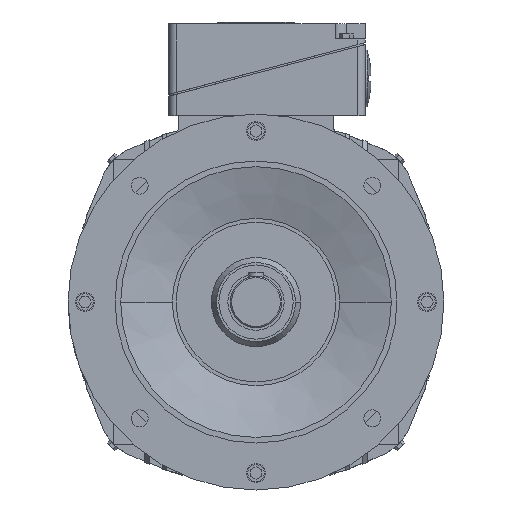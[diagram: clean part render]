
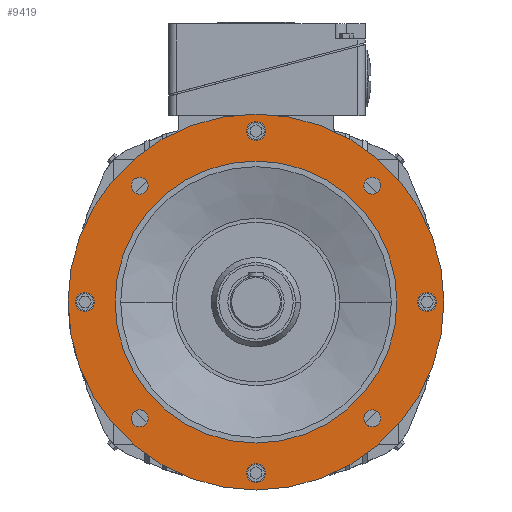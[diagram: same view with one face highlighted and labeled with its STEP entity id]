
A CAD part, front view. The second image highlights one B-rep face of the part: STEP entity #9419.
In plain terms, the highlighted planar face has unit normal (0, -1, 0).
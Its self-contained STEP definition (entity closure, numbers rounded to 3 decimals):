
#4403=EDGE_CURVE('',#9499,#4605,#12816,.T.);
#4451=EDGE_CURVE('',#10717,#5359,#12872,.T.);
#4605=VERTEX_POINT('',#13043);
#4783=EDGE_CURVE('',#4605,#9499,#13234,.T.);
#4973=VERTEX_POINT('',#13442);
#5017=VERTEX_POINT('',#13488);
#5359=VERTEX_POINT('',#13871);
#5581=VERTEX_POINT('',#14107);
#5633=VERTEX_POINT('',#14164);
#6057=EDGE_CURVE('',#5581,#7971,#14620,.T.);
#6237=VERTEX_POINT('',#14817);
#6575=EDGE_CURVE('',#6237,#11463,#15181,.T.);
#6701=VERTEX_POINT('',#15320);
#6723=VERTEX_POINT('',#15345);
#6781=EDGE_CURVE('',#5017,#6701,#15408,.T.);
#6913=EDGE_CURVE('',#8961,#4973,#15555,.T.);
#7023=EDGE_CURVE('',#5633,#7523,#15679,.T.);
#7095=EDGE_CURVE('',#6723,#12249,#15760,.T.);
#7499=EDGE_CURVE('',#10455,#9069,#16188,.T.);
#7523=VERTEX_POINT('',#16213);
#7789=EDGE_CURVE('',#7523,#5633,#16496,.T.);
#7971=VERTEX_POINT('',#16699);
#7977=EDGE_CURVE('',#7971,#5581,#16705,.T.);
#8027=EDGE_CURVE('',#9057,#9647,#16760,.T.);
#8373=EDGE_CURVE('',#5359,#10717,#17133,.T.);
#8401=EDGE_CURVE('',#11463,#6237,#17164,.T.);
#8961=VERTEX_POINT('',#17775);
#9057=VERTEX_POINT('',#17884);
#9069=VERTEX_POINT('',#17897);
#9419=ADVANCED_FACE('',(#18279,#18280,#18281,#18282,#18283,#18284,#18285,#18286,#18287,#18288),#18289,.T.);
#9499=VERTEX_POINT('',#18374);
#9515=EDGE_CURVE('',#9647,#9057,#18393,.T.);
#9647=VERTEX_POINT('',#18539);
#10033=EDGE_CURVE('',#9069,#10455,#18953,.T.);
#10455=VERTEX_POINT('',#19410);
#10717=VERTEX_POINT('',#19696);
#11037=EDGE_CURVE('',#4973,#8961,#20054,.T.);
#11463=VERTEX_POINT('',#20534);
#11583=EDGE_CURVE('',#6701,#5017,#20666,.T.);
#12233=EDGE_CURVE('',#12249,#6723,#21386,.T.);
#12249=VERTEX_POINT('',#21404);
#12816=CIRCLE('',#22155,9.0);
#12872=CIRCLE('',#22292,10.0);
#13043=CARTESIAN_POINT('',(130.108,-72.5,130.108));
#13234=CIRCLE('',#23018,9.0);
#13442=CARTESIAN_POINT('',(-150.0,-72.5,0.0));
#13488=CARTESIAN_POINT('',(-10.0,-72.5,-182.0));
#13871=CARTESIAN_POINT('',(10.0,-72.5,182.0));
#14107=CARTESIAN_POINT('',(200.0,-72.5,0.));
#14164=CARTESIAN_POINT('',(182.0,-72.5,10.0));
#14620=CIRCLE('',#25916,200.0);
#14817=CARTESIAN_POINT('',(130.108,-72.5,-130.108));
#15181=CIRCLE('',#27251,9.0);
#15320=CARTESIAN_POINT('',(10.0,-72.5,-182.0));
#15345=CARTESIAN_POINT('',(-130.108,-72.5,130.108));
#15408=CIRCLE('',#27627,10.0);
#15555=CIRCLE('',#27928,150.0);
#15679=CIRCLE('',#28214,10.0);
#15760=CIRCLE('',#28331,9.0);
#16188=CIRCLE('',#29282,10.0);
#16213=CARTESIAN_POINT('',(182.0,-72.5,-10.0));
#16496=CIRCLE('',#30033,10.0);
#16699=CARTESIAN_POINT('',(-200.0,-72.5,0.0));
#16705=CIRCLE('',#30408,200.0);
#16760=CIRCLE('',#30544,9.0);
#17133=CIRCLE('',#31347,10.0);
#17164=CIRCLE('',#31401,9.0);
#17775=CARTESIAN_POINT('',(150.0,-72.5,0.));
#17884=CARTESIAN_POINT('',(-117.38,-72.5,-117.38));
#17897=CARTESIAN_POINT('',(-182.0,-72.5,10.0));
#18279=FACE_BOUND('',#33677,.T.);
#18280=FACE_BOUND('',#33678,.T.);
#18281=FACE_BOUND('',#33679,.T.);
#18282=FACE_BOUND('',#33680,.T.);
#18283=FACE_BOUND('',#33681,.T.);
#18284=FACE_BOUND('',#33682,.T.);
#18285=FACE_BOUND('',#33683,.T.);
#18286=FACE_BOUND('',#33684,.T.);
#18287=FACE_BOUND('',#33685,.T.);
#18288=FACE_OUTER_BOUND('',#33686,.T.);
#18289=PLANE('',#33687);
#18374=CARTESIAN_POINT('',(117.38,-72.5,117.38));
#18393=CIRCLE('',#33961,9.0);
#18539=CARTESIAN_POINT('',(-130.108,-72.5,-130.108));
#18953=CIRCLE('',#35211,10.0);
#19410=CARTESIAN_POINT('',(-182.0,-72.5,-10.0));
#19696=CARTESIAN_POINT('',(-10.0,-72.5,182.0));
#20054=CIRCLE('',#37354,150.0);
#20534=CARTESIAN_POINT('',(117.38,-72.5,-117.38));
#20666=CIRCLE('',#38387,10.0);
#21386=CIRCLE('',#39867,9.0);
#21404=CARTESIAN_POINT('',(-117.38,-72.5,117.38));
#22155=AXIS2_PLACEMENT_3D('',#40866,#40867,#40868);
#22292=AXIS2_PLACEMENT_3D('',#40959,#40960,#40961);
#23018=AXIS2_PLACEMENT_3D('',#41323,#41324,#41325);
#25916=AXIS2_PLACEMENT_3D('',#42681,#42682,#42683);
#27251=AXIS2_PLACEMENT_3D('',#43485,#43486,#43487);
#27627=AXIS2_PLACEMENT_3D('',#43714,#43715,#43716);
#27928=AXIS2_PLACEMENT_3D('',#43899,#43900,#43901);
#28214=AXIS2_PLACEMENT_3D('',#44050,#44051,#44052);
#28331=AXIS2_PLACEMENT_3D('',#44155,#44156,#44157);
#29282=AXIS2_PLACEMENT_3D('',#44500,#44501,#44502);
#30033=AXIS2_PLACEMENT_3D('',#44777,#44778,#44779);
#30408=AXIS2_PLACEMENT_3D('',#45002,#45003,#45004);
#30544=AXIS2_PLACEMENT_3D('',#45059,#45060,#45061);
#31347=AXIS2_PLACEMENT_3D('',#45413,#45414,#45415);
#31401=AXIS2_PLACEMENT_3D('',#45451,#45452,#45453);
#33677=EDGE_LOOP('',(#46715,#46716));
#33678=EDGE_LOOP('',(#46717,#46718));
#33679=EDGE_LOOP('',(#46719,#46720));
#33680=EDGE_LOOP('',(#46721,#46722));
#33681=EDGE_LOOP('',(#46723,#46724));
#33682=EDGE_LOOP('',(#46725,#46726));
#33683=EDGE_LOOP('',(#46727,#46728));
#33684=EDGE_LOOP('',(#46729,#46730));
#33685=EDGE_LOOP('',(#46731,#46732));
#33686=EDGE_LOOP('',(#46733,#46734));
#33687=AXIS2_PLACEMENT_3D('',#46735,#46736,#46737);
#33961=AXIS2_PLACEMENT_3D('',#46838,#46839,#46840);
#35211=AXIS2_PLACEMENT_3D('',#47406,#47407,#47408);
#37354=AXIS2_PLACEMENT_3D('',#48577,#48578,#48579);
#38387=AXIS2_PLACEMENT_3D('',#49330,#49331,#49332);
#39867=AXIS2_PLACEMENT_3D('',#50121,#50122,#50123);
#40866=CARTESIAN_POINT('',(123.744,-72.5,123.744));
#40867=DIRECTION('',(-0.0,1.0,0.0));
#40868=DIRECTION('',(0.707,0.0,0.707));
#40959=CARTESIAN_POINT('',(0.0,-72.5,182.0));
#40960=DIRECTION('',(-0.0,1.0,0.0));
#40961=DIRECTION('',(1.0,0.0,0.0));
#41323=CARTESIAN_POINT('',(123.744,-72.5,123.744));
#41324=DIRECTION('',(-0.0,1.0,0.0));
#41325=DIRECTION('',(0.707,0.0,0.707));
#42681=CARTESIAN_POINT('',(0.0,-72.5,0.0));
#42682=DIRECTION('',(0.0,-1.0,0.0));
#42683=DIRECTION('',(-1.0,0.0,0.0));
#43485=CARTESIAN_POINT('',(123.744,-72.5,-123.744));
#43486=DIRECTION('',(-0.0,1.0,0.0));
#43487=DIRECTION('',(0.707,0.0,-0.707));
#43714=CARTESIAN_POINT('',(0.0,-72.5,-182.0));
#43715=DIRECTION('',(0.0,1.0,-0.0));
#43716=DIRECTION('',(-1.0,0.0,0.0));
#43899=CARTESIAN_POINT('',(0.0,-72.5,0.0));
#43900=DIRECTION('',(0.0,-1.0,0.0));
#43901=DIRECTION('',(-1.0,0.0,0.0));
#44050=CARTESIAN_POINT('',(182.0,-72.5,0.0));
#44051=DIRECTION('',(-0.0,1.0,0.0));
#44052=DIRECTION('',(0.0,0.0,-1.0));
#44155=CARTESIAN_POINT('',(-123.744,-72.5,123.744));
#44156=DIRECTION('',(0.0,1.0,-0.0));
#44157=DIRECTION('',(-0.707,0.0,0.707));
#44500=CARTESIAN_POINT('',(-182.0,-72.5,0.0));
#44501=DIRECTION('',(-0.0,1.0,0.0));
#44502=DIRECTION('',(0.0,0.0,1.0));
#44777=CARTESIAN_POINT('',(182.0,-72.5,0.0));
#44778=DIRECTION('',(-0.0,1.0,0.0));
#44779=DIRECTION('',(0.0,0.0,-1.0));
#45002=CARTESIAN_POINT('',(0.0,-72.5,0.0));
#45003=DIRECTION('',(0.0,-1.0,0.0));
#45004=DIRECTION('',(-1.0,0.0,0.0));
#45059=CARTESIAN_POINT('',(-123.744,-72.5,-123.744));
#45060=DIRECTION('',(0.0,1.0,0.0));
#45061=DIRECTION('',(-0.707,0.0,-0.707));
#45413=CARTESIAN_POINT('',(0.0,-72.5,182.0));
#45414=DIRECTION('',(-0.0,1.0,0.0));
#45415=DIRECTION('',(1.0,0.0,0.0));
#45451=CARTESIAN_POINT('',(123.744,-72.5,-123.744));
#45452=DIRECTION('',(-0.0,1.0,0.0));
#45453=DIRECTION('',(0.707,0.0,-0.707));
#46715=ORIENTED_EDGE('',*,*,#6575,.T.);
#46716=ORIENTED_EDGE('',*,*,#8401,.T.);
#46717=ORIENTED_EDGE('',*,*,#9515,.T.);
#46718=ORIENTED_EDGE('',*,*,#8027,.T.);
#46719=ORIENTED_EDGE('',*,*,#7095,.T.);
#46720=ORIENTED_EDGE('',*,*,#12233,.T.);
#46721=ORIENTED_EDGE('',*,*,#4783,.T.);
#46722=ORIENTED_EDGE('',*,*,#4403,.T.);
#46723=ORIENTED_EDGE('',*,*,#7023,.T.);
#46724=ORIENTED_EDGE('',*,*,#7789,.T.);
#46725=ORIENTED_EDGE('',*,*,#11583,.T.);
#46726=ORIENTED_EDGE('',*,*,#6781,.T.);
#46727=ORIENTED_EDGE('',*,*,#7499,.T.);
#46728=ORIENTED_EDGE('',*,*,#10033,.T.);
#46729=ORIENTED_EDGE('',*,*,#4451,.T.);
#46730=ORIENTED_EDGE('',*,*,#8373,.T.);
#46731=ORIENTED_EDGE('',*,*,#11037,.F.);
#46732=ORIENTED_EDGE('',*,*,#6913,.F.);
#46733=ORIENTED_EDGE('',*,*,#7977,.T.);
#46734=ORIENTED_EDGE('',*,*,#6057,.T.);
#46735=CARTESIAN_POINT('',(-175.0,-72.5,0.0));
#46736=DIRECTION('',(0.0,-1.0,0.0));
#46737=DIRECTION('',(-1.0,0.0,0.0));
#46838=CARTESIAN_POINT('',(-123.744,-72.5,-123.744));
#46839=DIRECTION('',(0.0,1.0,0.0));
#46840=DIRECTION('',(-0.707,0.0,-0.707));
#47406=CARTESIAN_POINT('',(-182.0,-72.5,0.0));
#47407=DIRECTION('',(-0.0,1.0,0.0));
#47408=DIRECTION('',(0.0,0.0,1.0));
#48577=CARTESIAN_POINT('',(0.0,-72.5,0.0));
#48578=DIRECTION('',(0.0,-1.0,0.0));
#48579=DIRECTION('',(-1.0,0.0,0.0));
#49330=CARTESIAN_POINT('',(0.0,-72.5,-182.0));
#49331=DIRECTION('',(0.0,1.0,-0.0));
#49332=DIRECTION('',(-1.0,0.0,0.0));
#50121=CARTESIAN_POINT('',(-123.744,-72.5,123.744));
#50122=DIRECTION('',(0.0,1.0,-0.0));
#50123=DIRECTION('',(-0.707,0.0,0.707));
